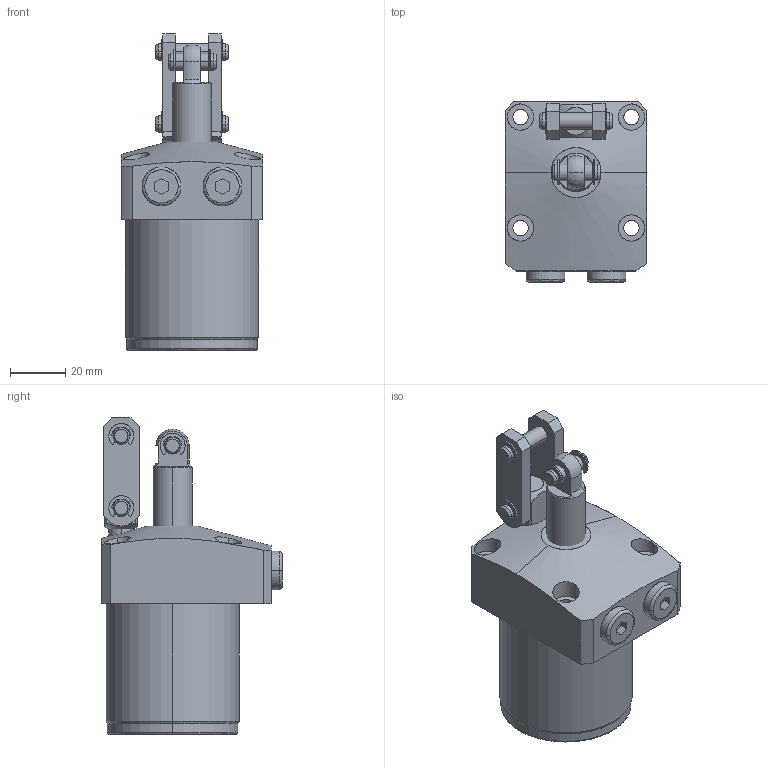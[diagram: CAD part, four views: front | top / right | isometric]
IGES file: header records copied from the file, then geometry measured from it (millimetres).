
Start section: SolidWorks IGES file using analytic representation for surfaces
Global section: file name: C:\Documents and Settings\nijil\My Documents\Clasys1\LQ Series\48\0401-0101.IGS; native system: SolidWorks 2010; preprocessor: SolidWorks 2010; author: nijil; date: 130723.125251; units: millimetre
Bounding box: 51 x 65 x 114 mm (x, y, z)
Surface area: 26719.2 mm2 (no closed solid volume)
Topology: 0 solids, 0 shells, 267 faces, 4335 edges, 4330 vertices
Faces by surface type: revolution 145, bspline 122
